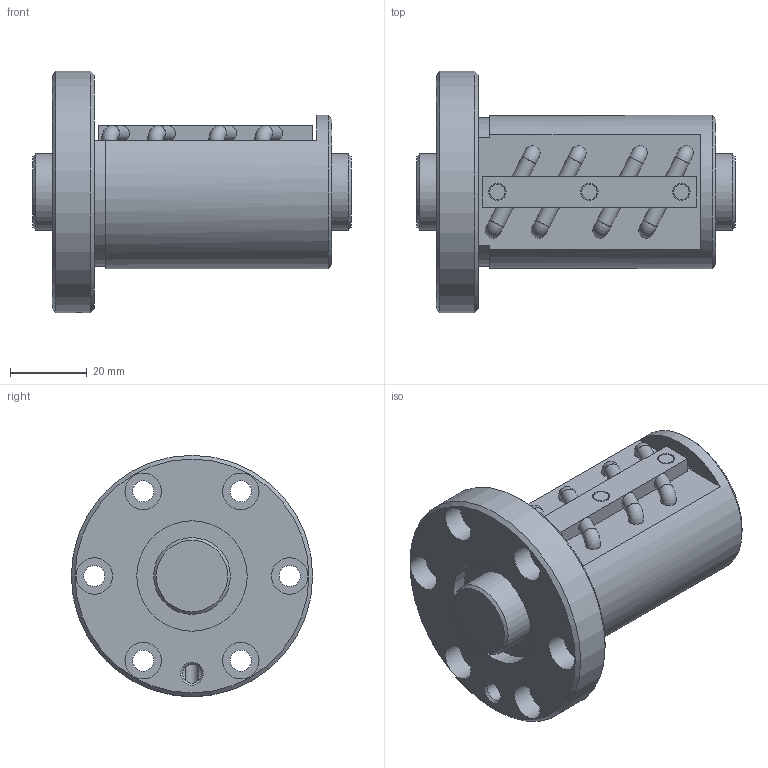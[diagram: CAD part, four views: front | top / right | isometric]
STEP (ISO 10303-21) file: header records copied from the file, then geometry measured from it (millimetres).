
FILE_DESCRIPTION(/* description */ ('STEP AP203'),/* implementation_level */ '2;1');
FILE_NAME(/* name */ 'BIF2004V-10RRG0+83LC0_000',/* time_stamp */ '2024-07-15T08:16:37+02:00',/* author */ ('License CC BY-ND 4.0'),/* organization */ ('CADENAS'),/* preprocessor_version */ 'ST-DEVELOPER v19.3',/* originating_system */ 'PARTsolutions',/* authorisation */ ' ');
FILE_SCHEMA (('CONFIG_CONTROL_DESIGN'));
Length unit declared in the file: millimetre
Products named in the file (3): BIF2004V-10RRG0+83LC0_000; BIF2004V-10RR000 Shaft; BIF2004V-10RR Nut
Assembly tree (2 placements, depth 2):
  BIF2004V-10RRG0+83LC0_000
    BIF2004V-10RR000 Shaft
    BIF2004V-10RR Nut
Bounding box: 83 x 63 x 63 mm (x, y, z)
Volume: 103368 mm3; surface area: 28764.4 mm2
Topology: 2 solids, 2 shells, 105 faces, 263 edges, 167 vertices
Faces by surface type: plane 45, cylinder 44, cone 8, torus 8
Full cylindrical faces by diameter (mm): 3.35 x2, 4 x3, 4.5 x3, 4.917 x1, 5.5 x6, 9.5 x6, 20 x2, 28.8 x2, 40 x1, 63 x1
Entity records: 3155 total; most frequent: CARTESIAN_POINT 606, DIRECTION 556, ORIENTED_EDGE 438, AXIS2_PLACEMENT_3D 243, EDGE_CURVE 219, EDGE_LOOP 180, FACE_BOUND 180, VERTEX_POINT 159
